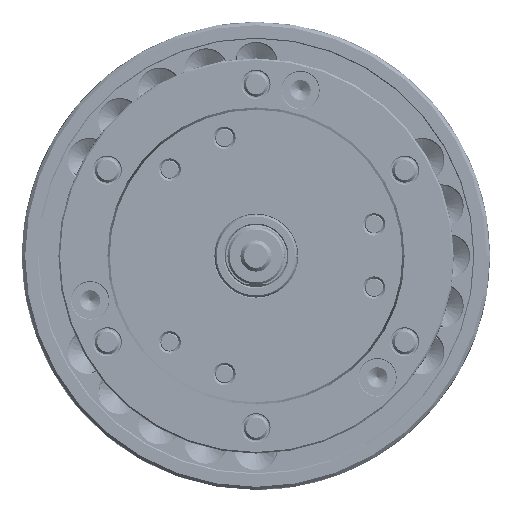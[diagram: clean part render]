
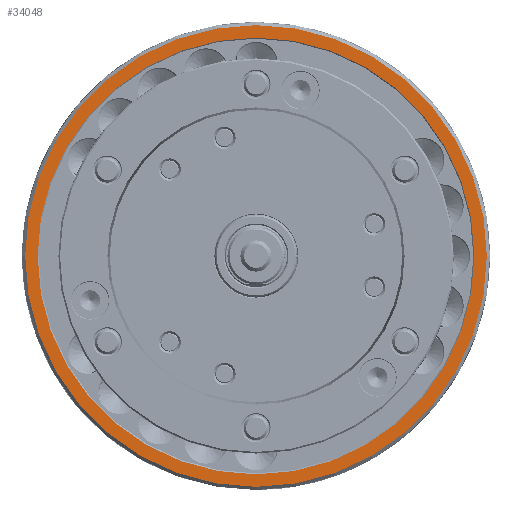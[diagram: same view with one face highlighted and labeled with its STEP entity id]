
A CAD part, left-side view. The second image highlights one B-rep face of the part: STEP entity #34048.
In plain terms, the highlighted planar face has unit normal (-1, 0, 0).
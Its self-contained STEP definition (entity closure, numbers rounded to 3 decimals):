
#6158 = CARTESIAN_POINT ( 'NONE',  ( -116., 0., -210. ) ) ;
#11051 = DIRECTION ( 'NONE',  ( 0., 0., 1. ) ) ;
#34048 = ADVANCED_FACE ( 'NONE', ( #139171, #219983 ), #157783, .F. ) ;
#38558 = CIRCLE ( 'NONE', #186572, 210. ) ;
#40906 = AXIS2_PLACEMENT_3D ( 'NONE', #102636, #123816, #223217 ) ;
#57027 = AXIS2_PLACEMENT_3D ( 'NONE', #91294, #88657, #145706 ) ;
#57612 = AXIS2_PLACEMENT_3D ( 'NONE', #175311, #192560, #11051 ) ;
#58372 = EDGE_LOOP ( 'NONE', ( #67037, #239122 ) ) ;
#62965 = EDGE_CURVE ( 'NONE', #211542, #115417, #38558, .T. ) ;
#67037 = ORIENTED_EDGE ( 'NONE', *, *, #170900, .F. ) ;
#71764 = DIRECTION ( 'NONE',  ( 0., 0., 1. ) ) ;
#77311 = EDGE_CURVE ( 'NONE', #199016, #80541, #133809, .T. ) ;
#80541 = VERTEX_POINT ( 'NONE', #228823 ) ;
#88657 = DIRECTION ( 'NONE',  ( -1., 0., 0. ) ) ;
#91294 = CARTESIAN_POINT ( 'NONE',  ( -116., 0., 0. ) ) ;
#92860 = CARTESIAN_POINT ( 'NONE',  ( -116., 222., 0. ) ) ;
#102636 = CARTESIAN_POINT ( 'NONE',  ( -116., 0., 0. ) ) ;
#115417 = VERTEX_POINT ( 'NONE', #238144 ) ;
#123816 = DIRECTION ( 'NONE',  ( -1., 0., 0. ) ) ;
#133809 = CIRCLE ( 'NONE', #57612, 222. ) ;
#139171 = FACE_BOUND ( 'NONE', #58372, .T. ) ;
#141979 = EDGE_LOOP ( 'NONE', ( #224146, #151365 ) ) ;
#145706 = DIRECTION ( 'NONE',  ( 0., 0., 1. ) ) ;
#151365 = ORIENTED_EDGE ( 'NONE', *, *, #77311, .T. ) ;
#154402 = CIRCLE ( 'NONE', #57027, 222. ) ;
#157783 = PLANE ( 'NONE',  #215496 ) ;
#170900 = EDGE_CURVE ( 'NONE', #115417, #211542, #180463, .T. ) ;
#173721 = DIRECTION ( 'NONE',  ( 0., 0., -1. ) ) ;
#175311 = CARTESIAN_POINT ( 'NONE',  ( -116., 0., 0. ) ) ;
#180463 = CIRCLE ( 'NONE', #40906, 210. ) ;
#185851 = EDGE_CURVE ( 'NONE', #80541, #199016, #154402, .T. ) ;
#186572 = AXIS2_PLACEMENT_3D ( 'NONE', #253277, #250654, #71764 ) ;
#192560 = DIRECTION ( 'NONE',  ( -1., 0., 0. ) ) ;
#198832 = DIRECTION ( 'NONE',  ( 1., 0., 0. ) ) ;
#199016 = VERTEX_POINT ( 'NONE', #246244 ) ;
#211542 = VERTEX_POINT ( 'NONE', #6158 ) ;
#215496 = AXIS2_PLACEMENT_3D ( 'NONE', #92860, #198832, #173721 ) ;
#219983 = FACE_OUTER_BOUND ( 'NONE', #141979, .T. ) ;
#223217 = DIRECTION ( 'NONE',  ( 0., 0., 1. ) ) ;
#224146 = ORIENTED_EDGE ( 'NONE', *, *, #185851, .T. ) ;
#228823 = CARTESIAN_POINT ( 'NONE',  ( -116., 0., -222. ) ) ;
#238144 = CARTESIAN_POINT ( 'NONE',  ( -116., 0., 210. ) ) ;
#239122 = ORIENTED_EDGE ( 'NONE', *, *, #62965, .F. ) ;
#246244 = CARTESIAN_POINT ( 'NONE',  ( -116., 0., 222. ) ) ;
#250654 = DIRECTION ( 'NONE',  ( -1., 0., 0. ) ) ;
#253277 = CARTESIAN_POINT ( 'NONE',  ( -116., 0., 0. ) ) ;
